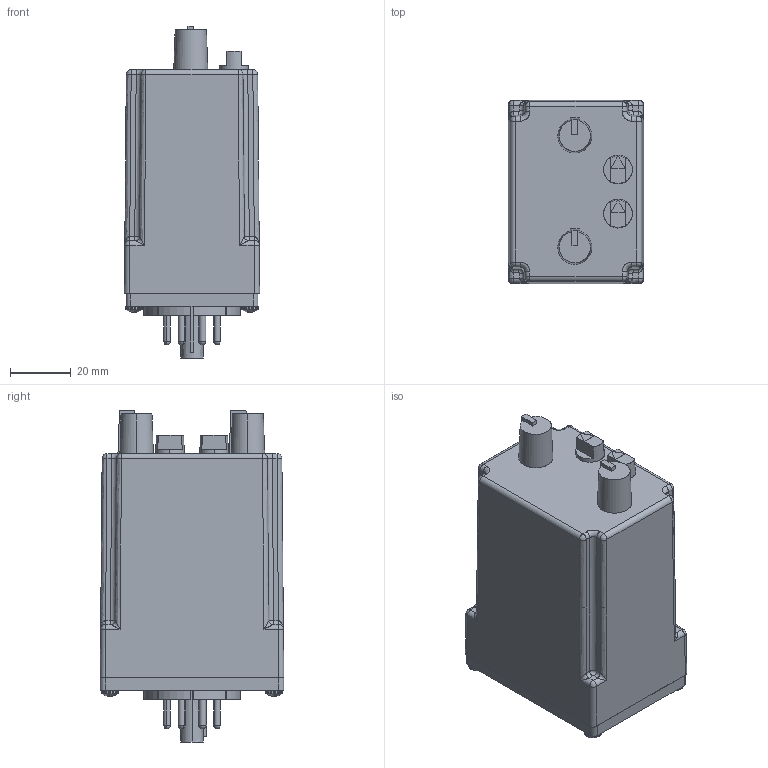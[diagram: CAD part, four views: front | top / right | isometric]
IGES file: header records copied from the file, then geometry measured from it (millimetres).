
Start section: SolidWorks IGES file using analytic representation for surfaces
Global section: file name: D:\Modeling Work\Macromatic\2019\TR-6 eCAD Package\TR-6 Package\TR-6 Cycle.IGS; native system: SolidWorks 2019; preprocessor: SolidWorks 2019; author: mdahl; date: 190519.214140; units: millimetre
Bounding box: 44.45 x 60.33 x 109.09 mm (x, y, z)
Surface area: 30651.8 mm2 (no closed solid volume)
Topology: 0 solids, 0 shells, 726 faces, 8872 edges, 8804 vertices
Faces by surface type: bspline 368, revolution 358
